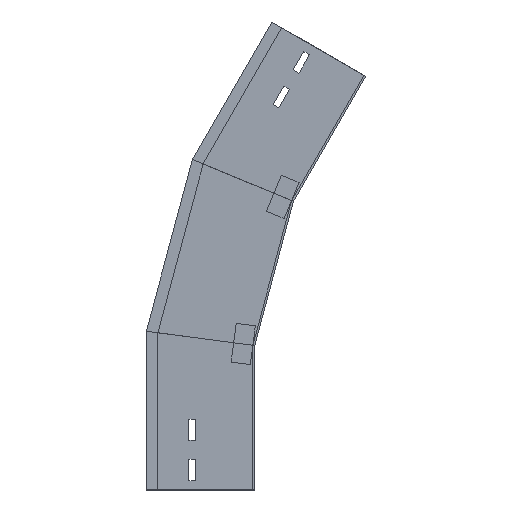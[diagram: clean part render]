
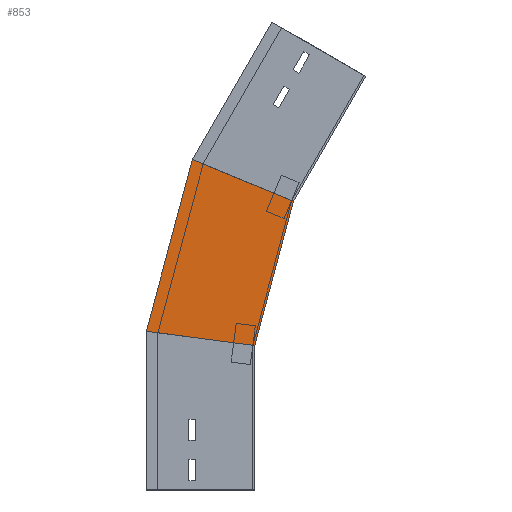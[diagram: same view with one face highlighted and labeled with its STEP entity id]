
A CAD part, left-side view. The second image highlights one B-rep face of the part: STEP entity #853.
In plain terms, the highlighted planar face has unit normal (-1, 0, 0) as drawn and (1, 0, 0) by its records, which use the part's own axes.
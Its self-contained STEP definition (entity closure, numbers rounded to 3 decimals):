
#15 = EDGE_CURVE ( 'NONE', #1420, #1239, #253, .T. ) ;
#21 = DIRECTION ( 'NONE',  ( 0., -0.259, 0.966 ) ) ;
#27 = LINE ( 'NONE', #49, #986 ) ;
#33 = VERTEX_POINT ( 'NONE', #822 ) ;
#42 = CARTESIAN_POINT ( 'NONE',  ( 0., 112.5, 164.811 ) ) ;
#49 = CARTESIAN_POINT ( 'NONE',  ( 0., 112.909, 163.284 ) ) ;
#89 = CARTESIAN_POINT ( 'NONE',  ( 0., -40.117, 299.719 ) ) ;
#91 = AXIS2_PLACEMENT_3D ( 'NONE', #1248, #667, #341 ) ;
#125 = FACE_OUTER_BOUND ( 'NONE', #914, .T. ) ;
#253 = LINE ( 'NONE', #1292, #461 ) ;
#268 = VECTOR ( 'NONE', #21, 1000. ) ;
#269 = DIRECTION ( 'NONE',  ( 0., -0.259, 0.966 ) ) ;
#309 = ORIENTED_EDGE ( 'NONE', *, *, #1237, .T. ) ;
#341 = DIRECTION ( 'NONE',  ( 0., 0., -1. ) ) ;
#376 = LINE ( 'NONE', #1287, #268 ) ;
#451 = EDGE_CURVE ( 'NONE', #33, #725, #1456, .T. ) ;
#461 = VECTOR ( 'NONE', #728, 1000. ) ;
#667 = DIRECTION ( 'NONE',  ( 1., 0., 0. ) ) ;
#683 = PLANE ( 'NONE',  #91 ) ;
#725 = VERTEX_POINT ( 'NONE', #89 ) ;
#728 = DIRECTION ( 'NONE',  ( 0., -0.991, -0.131 ) ) ;
#738 = CARTESIAN_POINT ( 'NONE',  ( 0., -60.785, 291.157 ) ) ;
#813 = ORIENTED_EDGE ( 'NONE', *, *, #451, .T. ) ;
#822 = CARTESIAN_POINT ( 'NONE',  ( 0., 64.716, 343.142 ) ) ;
#853 = ADVANCED_FACE ( 'NONE', ( #125 ), #683, .T. ) ;
#914 = EDGE_LOOP ( 'NONE', ( #309, #813, #1004, #1124 ) ) ;
#980 = DIRECTION ( 'NONE',  ( 0., -0.924, -0.383 ) ) ;
#986 = VECTOR ( 'NONE', #269, 1000. ) ;
#1004 = ORIENTED_EDGE ( 'NONE', *, *, #1304, .F. ) ;
#1124 = ORIENTED_EDGE ( 'NONE', *, *, #15, .F. ) ;
#1130 = VECTOR ( 'NONE', #980, 1000. ) ;
#1198 = CARTESIAN_POINT ( 'NONE',  ( 0., 0., 150. ) ) ;
#1237 = EDGE_CURVE ( 'NONE', #1420, #33, #27, .T. ) ;
#1239 = VERTEX_POINT ( 'NONE', #1198 ) ;
#1248 = CARTESIAN_POINT ( 'NONE',  ( 0., 4.243, 134.167 ) ) ;
#1287 = CARTESIAN_POINT ( 'NONE',  ( 0., 4.243, 134.167 ) ) ;
#1292 = CARTESIAN_POINT ( 'NONE',  ( 0., -19.411, 147.444 ) ) ;
#1304 = EDGE_CURVE ( 'NONE', #1239, #725, #376, .T. ) ;
#1420 = VERTEX_POINT ( 'NONE', #42 ) ;
#1456 = LINE ( 'NONE', #738, #1130 ) ;
